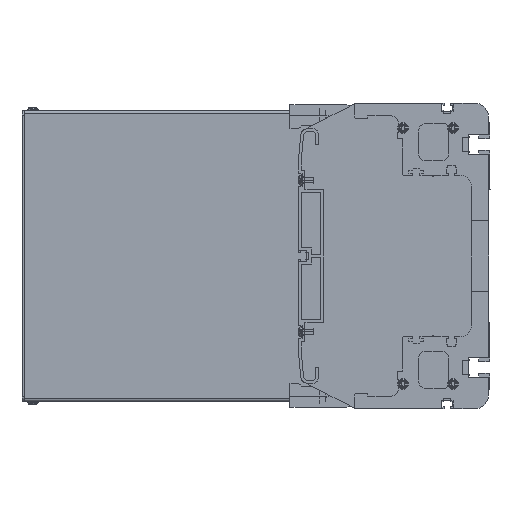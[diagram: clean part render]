
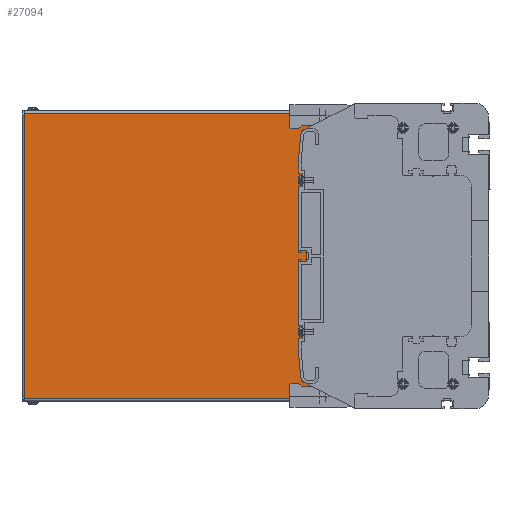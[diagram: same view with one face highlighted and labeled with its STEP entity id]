
A CAD part, left-side view. The second image highlights one B-rep face of the part: STEP entity #27094.
In plain terms, the highlighted planar face has unit normal (-1, 0, 0).
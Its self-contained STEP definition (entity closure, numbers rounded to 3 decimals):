
#4013=DIRECTION('',(0.,0.,1.));
#4014=VECTOR('',#4013,2.8);
#4015=CARTESIAN_POINT('',(-134.5,95.,97.2));
#4016=LINE('',#4015,#4014);
#4313=DIRECTION('',(0.,1.,0.));
#4314=VECTOR('',#4313,1.5);
#4315=CARTESIAN_POINT('',(-134.5,326.,98.5));
#4316=LINE('',#4315,#4314);
#4321=DIRECTION('',(0.,0.,-1.));
#4322=VECTOR('',#4321,1.5);
#4323=CARTESIAN_POINT('',(-134.5,326.,-98.5));
#4324=LINE('',#4323,#4322);
#4325=DIRECTION('',(0.,0.,-1.));
#4326=VECTOR('',#4325,1.5);
#4327=CARTESIAN_POINT('',(-134.5,326.,100.));
#4328=LINE('',#4327,#4326);
#4329=DIRECTION('',(0.,0.,1.));
#4330=VECTOR('',#4329,194.4);
#4331=CARTESIAN_POINT('',(-134.5,95.,-97.2));
#4332=LINE('',#4331,#4330);
#4337=DIRECTION('',(0.,-1.,0.));
#4338=VECTOR('',#4337,1.5);
#4339=CARTESIAN_POINT('',(-134.5,327.5,-98.5));
#4340=LINE('',#4339,#4338);
#4499=DIRECTION('',(0.,0.,-1.));
#4500=VECTOR('',#4499,2.8);
#4501=CARTESIAN_POINT('',(-134.5,95.,-97.2));
#4502=LINE('',#4501,#4500);
#4796=DIRECTION('',(0.,0.,1.));
#4797=VECTOR('',#4796,197.);
#4798=CARTESIAN_POINT('',(-134.5,327.5,-98.5));
#4799=LINE('',#4798,#4797);
#5345=DIRECTION('',(0.,1.,0.));
#5346=VECTOR('',#5345,231.);
#5347=CARTESIAN_POINT('',(-134.5,95.,100.));
#5348=LINE('',#5347,#5346);
#6001=DIRECTION('',(0.,-1.,0.));
#6002=VECTOR('',#6001,231.);
#6003=CARTESIAN_POINT('',(-134.5,326.,-100.));
#6004=LINE('',#6003,#6002);
#16537=CARTESIAN_POINT('',(-134.5,326.,100.));
#16539=VERTEX_POINT('',#16537);
#16542=CARTESIAN_POINT('',(-134.5,326.,-100.));
#16544=VERTEX_POINT('',#16542);
#19549=CARTESIAN_POINT('',(-134.5,327.5,98.5));
#19551=VERTEX_POINT('',#19549);
#19553=CARTESIAN_POINT('',(-134.5,327.5,-98.5));
#19554=VERTEX_POINT('',#19553);
#20033=CARTESIAN_POINT('',(-134.5,95.,-97.2));
#20035=VERTEX_POINT('',#20033);
#20047=CARTESIAN_POINT('',(-134.5,95.,-100.));
#20048=VERTEX_POINT('',#20047);
#20057=CARTESIAN_POINT('',(-134.5,95.,97.2));
#20058=CARTESIAN_POINT('',(-134.5,95.,100.));
#20059=VERTEX_POINT('',#20057);
#20060=VERTEX_POINT('',#20058);
#20098=CARTESIAN_POINT('',(-134.5,326.,98.5));
#20100=VERTEX_POINT('',#20098);
#20101=CARTESIAN_POINT('',(-134.5,326.,-98.5));
#20103=VERTEX_POINT('',#20101);
#27071=CARTESIAN_POINT('',(-134.5,210.5,0.));
#27072=DIRECTION('',(1.,0.,0.));
#27073=DIRECTION('',(0.,0.,1.));
#27074=AXIS2_PLACEMENT_3D('',#27071,#27072,#27073);
#27075=PLANE('',#27074);
#27076=ORIENTED_EDGE('',*,*,#26971,.F.);
#27078=ORIENTED_EDGE('',*,*,#27077,.F.);
#27080=ORIENTED_EDGE('',*,*,#27079,.T.);
#27081=ORIENTED_EDGE('',*,*,#27062,.F.);
#27082=ORIENTED_EDGE('',*,*,#26959,.F.);
#27084=ORIENTED_EDGE('',*,*,#27083,.F.);
#27085=ORIENTED_EDGE('',*,*,#26683,.F.);
#27087=ORIENTED_EDGE('',*,*,#27086,.F.);
#27089=ORIENTED_EDGE('',*,*,#27088,.T.);
#27091=ORIENTED_EDGE('',*,*,#27090,.F.);
#27092=EDGE_LOOP('',(#27076,#27078,#27080,#27081,#27082,#27084,#27085,#27087,
#27089,#27091));
#27093=FACE_OUTER_BOUND('',#27092,.F.);
#27094=ADVANCED_FACE('',(#27093),#27075,.F.);
#26683=EDGE_CURVE('',#20059,#20060,#4016,.T.);
#26959=EDGE_CURVE('',#16539,#20100,#4328,.T.);
#26971=EDGE_CURVE('',#20103,#16544,#4324,.T.);
#27062=EDGE_CURVE('',#20100,#19551,#4316,.T.);
#27077=EDGE_CURVE('',#19554,#20103,#4340,.T.);
#27079=EDGE_CURVE('',#19554,#19551,#4799,.T.);
#27083=EDGE_CURVE('',#20060,#16539,#5348,.T.);
#27086=EDGE_CURVE('',#20035,#20059,#4332,.T.);
#27088=EDGE_CURVE('',#20035,#20048,#4502,.T.);
#27090=EDGE_CURVE('',#16544,#20048,#6004,.T.);
